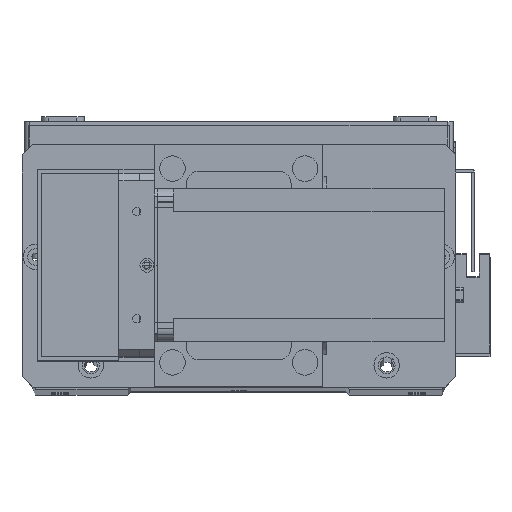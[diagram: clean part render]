
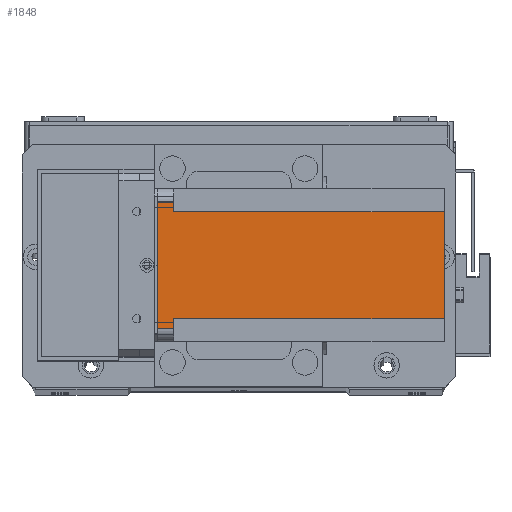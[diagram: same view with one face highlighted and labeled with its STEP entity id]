
A CAD part, top view. The second image highlights one B-rep face of the part: STEP entity #1848.
In plain terms, the highlighted planar face has unit normal (0, 0, 1) as drawn and (-1, 0, 0) by its records, which use the part's own axes.
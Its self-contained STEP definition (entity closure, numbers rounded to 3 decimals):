
#204 = VERTEX_POINT ( 'NONE', #1361 ) ;
#1004 = ORIENTED_EDGE ( 'NONE', *, *, #16005, .F. ) ;
#1240 = ORIENTED_EDGE ( 'NONE', *, *, #6236, .F. ) ;
#1320 = ORIENTED_EDGE ( 'NONE', *, *, #24651, .F. ) ;
#1361 = CARTESIAN_POINT ( 'NONE',  ( 0., 55., -6.5 ) ) ;
#1848 = ADVANCED_FACE ( 'NONE', ( #3204 ), #25960, .T. ) ;
#2161 = EDGE_CURVE ( 'NONE', #7847, #6628, #9407, .T. ) ;
#2612 = ORIENTED_EDGE ( 'NONE', *, *, #13390, .T. ) ;
#3204 = FACE_OUTER_BOUND ( 'NONE', #8849, .T. ) ;
#4268 = VECTOR ( 'NONE', #18355, 1000. ) ;
#4359 = DIRECTION ( 'NONE',  ( 0., 1., 0. ) ) ;
#4709 = DIRECTION ( 'NONE',  ( 0., -1., 0. ) ) ;
#5707 = CARTESIAN_POINT ( 'NONE',  ( 0., 51., -6.5 ) ) ;
#5863 = CARTESIAN_POINT ( 'NONE',  ( 0., 9., -6.5 ) ) ;
#6236 = EDGE_CURVE ( 'NONE', #18484, #6628, #20828, .T. ) ;
#6628 = VERTEX_POINT ( 'NONE', #18562 ) ;
#6837 = LINE ( 'NONE', #8238, #25057 ) ;
#7105 = CARTESIAN_POINT ( 'NONE',  ( 0., 5., -112.5 ) ) ;
#7196 = ORIENTED_EDGE ( 'NONE', *, *, #2161, .T. ) ;
#7798 = ORIENTED_EDGE ( 'NONE', *, *, #28948, .T. ) ;
#7847 = VERTEX_POINT ( 'NONE', #29686 ) ;
#8027 = VERTEX_POINT ( 'NONE', #5863 ) ;
#8238 = CARTESIAN_POINT ( 'NONE',  ( 0., 9., -112.5 ) ) ;
#8508 = DIRECTION ( 'NONE',  ( 0., 0., -1. ) ) ;
#8849 = EDGE_LOOP ( 'NONE', ( #1004, #7196, #1240, #2612, #1320, #21614, #7798, #25806 ) ) ;
#9407 = LINE ( 'NONE', #7105, #28367 ) ;
#9433 = EDGE_CURVE ( 'NONE', #22513, #9727, #19663, .T. ) ;
#9482 = CARTESIAN_POINT ( 'NONE',  ( 0., 0., 0. ) ) ;
#9727 = VERTEX_POINT ( 'NONE', #5707 ) ;
#9736 = EDGE_CURVE ( 'NONE', #8027, #22719, #6837, .T. ) ;
#9825 = CARTESIAN_POINT ( 'NONE',  ( 0., 0., -112.5 ) ) ;
#10893 = AXIS2_PLACEMENT_3D ( 'NONE', #21006, #11120, #28426 ) ;
#10965 = CARTESIAN_POINT ( 'NONE',  ( 0., 55., -112.5 ) ) ;
#11120 = DIRECTION ( 'NONE',  ( -1., 0., 0. ) ) ;
#11267 = VECTOR ( 'NONE', #8508, 1000. ) ;
#11592 = VECTOR ( 'NONE', #4359, 1000. ) ;
#12116 = DIRECTION ( 'NONE',  ( 0., 0., 1. ) ) ;
#12355 = LINE ( 'NONE', #19219, #11592 ) ;
#13032 = VECTOR ( 'NONE', #12116, 1000. ) ;
#13390 = EDGE_CURVE ( 'NONE', #18484, #204, #17084, .T. ) ;
#14209 = VECTOR ( 'NONE', #4709, 1000. ) ;
#14611 = CARTESIAN_POINT ( 'NONE',  ( 0., 51., -112.5 ) ) ;
#14725 = VECTOR ( 'NONE', #22279, 1000. ) ;
#15670 = DIRECTION ( 'NONE',  ( 0., 0., -1. ) ) ;
#15948 = CARTESIAN_POINT ( 'NONE',  ( 0., 51., -112.5 ) ) ;
#16005 = EDGE_CURVE ( 'NONE', #7847, #8027, #29858, .T. ) ;
#17084 = LINE ( 'NONE', #10965, #11267 ) ;
#17173 = DIRECTION ( 'NONE',  ( 0., 0., 1. ) ) ;
#18355 = DIRECTION ( 'NONE',  ( 0., 1., 0. ) ) ;
#18484 = VERTEX_POINT ( 'NONE', #30281 ) ;
#18562 = CARTESIAN_POINT ( 'NONE',  ( 0., 5., 0. ) ) ;
#19219 = CARTESIAN_POINT ( 'NONE',  ( 0., 60., -6.5 ) ) ;
#19663 = LINE ( 'NONE', #14611, #13032 ) ;
#20828 = LINE ( 'NONE', #9482, #14209 ) ;
#21006 = CARTESIAN_POINT ( 'NONE',  ( 0., 0., -112.5 ) ) ;
#21614 = ORIENTED_EDGE ( 'NONE', *, *, #9433, .F. ) ;
#22100 = LINE ( 'NONE', #9825, #14725 ) ;
#22279 = DIRECTION ( 'NONE',  ( 0., -1., 0. ) ) ;
#22513 = VERTEX_POINT ( 'NONE', #15948 ) ;
#22719 = VERTEX_POINT ( 'NONE', #26636 ) ;
#24651 = EDGE_CURVE ( 'NONE', #9727, #204, #12355, .T. ) ;
#25057 = VECTOR ( 'NONE', #15670, 1000. ) ;
#25806 = ORIENTED_EDGE ( 'NONE', *, *, #9736, .F. ) ;
#25960 = PLANE ( 'NONE',  #10893 ) ;
#26636 = CARTESIAN_POINT ( 'NONE',  ( 0., 9., -112.5 ) ) ;
#28367 = VECTOR ( 'NONE', #17173, 1000. ) ;
#28426 = DIRECTION ( 'NONE',  ( 0., -1., 0. ) ) ;
#28948 = EDGE_CURVE ( 'NONE', #22513, #22719, #22100, .T. ) ;
#29686 = CARTESIAN_POINT ( 'NONE',  ( 0., 5., -6.5 ) ) ;
#29858 = LINE ( 'NONE', #30709, #4268 ) ;
#30281 = CARTESIAN_POINT ( 'NONE',  ( 0., 55., 0. ) ) ;
#30709 = CARTESIAN_POINT ( 'NONE',  ( 0., 0., -6.5 ) ) ;
